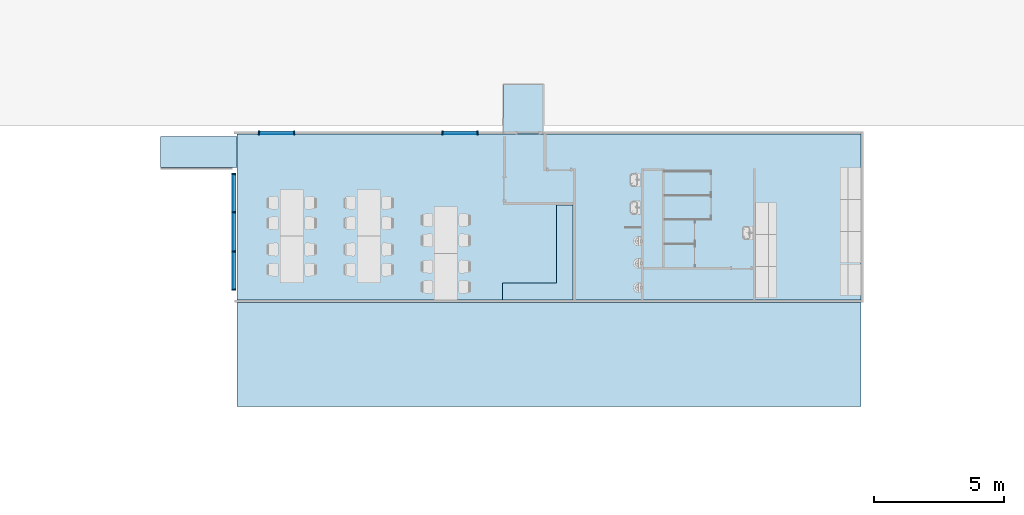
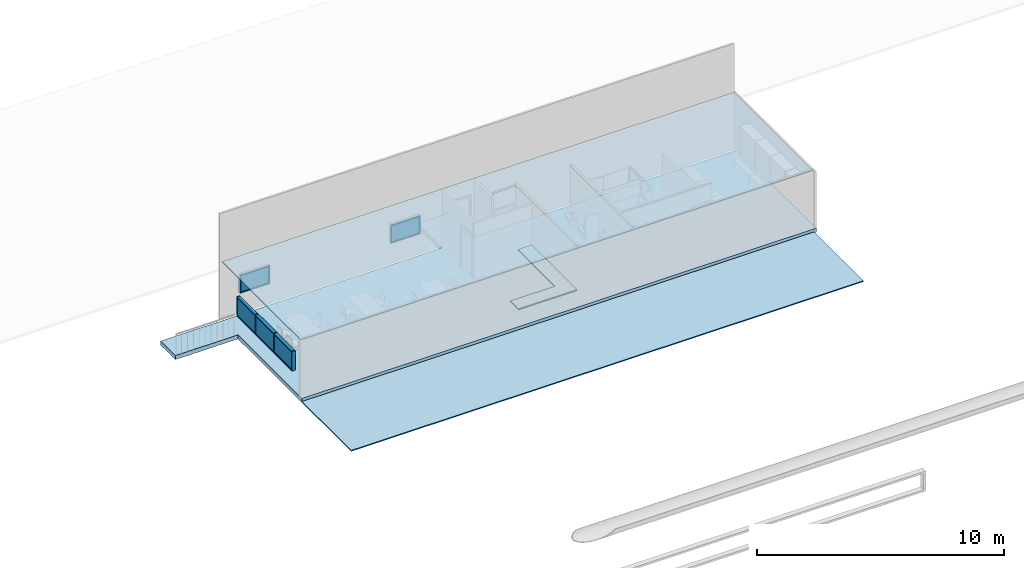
# One storey, part 1 of 6: 18 members, 5 plates, 4 slabs, 3 elements without a shape of their own.
"""IFC2X3 building model written with IfcOpenShell, lengths in millimetres."""

from ifc_helpers import new_model, entity, si_unit, converted_unit, derived_unit, direction, frame, frame_2d, origin, origin_2d_with_axis, place, context, subcontext, project, spatial, polyline, rectangle, outline, extrude, source, transform, mapped, material, layer, layer_set, layer_usage, type_object, type_shapes, element, aggregate, save


model = new_model("IFC2X3")

# Units and contexts
model_context = context("Model", 3, precision=0.01, world=origin(), true_north=direction((4.05803320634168e-15, -1.0)))
body_context = subcontext(model_context, "Body", "Model", "MODEL_VIEW")
ifc_project = project(units=[si_unit("LENGTHUNIT", "METRE", prefix="MILLI"), si_unit("AREAUNIT", "SQUARE_METRE"), si_unit("VOLUMEUNIT", "CUBIC_METRE"), converted_unit("PLANEANGLEUNIT", "DEGREE", entity("IfcRatioMeasure", 0.0174532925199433), si_unit("PLANEANGLEUNIT", "RADIAN"), dimensions=[0, 0, 0, 0, 0, 0, 0]), si_unit("MASSUNIT", "GRAM", prefix="KILO"), derived_unit("MASSDENSITYUNIT", [(si_unit("MASSUNIT", "GRAM", prefix="KILO"), 1), (si_unit("LENGTHUNIT", "METRE"), -3)]), si_unit("TIMEUNIT", "SECOND"), si_unit("FREQUENCYUNIT", "HERTZ"), si_unit("THERMODYNAMICTEMPERATUREUNIT", "DEGREE_CELSIUS"), derived_unit("THERMALTRANSMITTANCEUNIT", [(si_unit("MASSUNIT", "GRAM", prefix="KILO"), 1), (si_unit("THERMODYNAMICTEMPERATUREUNIT", "KELVIN"), -1), (si_unit("TIMEUNIT", "SECOND"), -3)]), derived_unit("VOLUMETRICFLOWRATEUNIT", [(si_unit("LENGTHUNIT", "METRE"), 3), (si_unit("TIMEUNIT", "SECOND"), -1)]), si_unit("ELECTRICCURRENTUNIT", "AMPERE"), si_unit("ELECTRICVOLTAGEUNIT", "VOLT"), si_unit("POWERUNIT", "WATT"), si_unit("FORCEUNIT", "NEWTON", prefix="KILO"), si_unit("ILLUMINANCEUNIT", "LUX"), si_unit("LUMINOUSFLUXUNIT", "LUMEN"), si_unit("LUMINOUSINTENSITYUNIT", "CANDELA"), derived_unit("USERDEFINED", [(si_unit("MASSUNIT", "GRAM", prefix="KILO"), -1), (si_unit("LENGTHUNIT", "METRE"), -2), (si_unit("TIMEUNIT", "SECOND"), 3), (si_unit("LUMINOUSFLUXUNIT", "LUMEN"), 1)]), derived_unit("LINEARVELOCITYUNIT", [(si_unit("LENGTHUNIT", "METRE"), 1), (si_unit("TIMEUNIT", "SECOND"), -1)]), si_unit("PRESSUREUNIT", "PASCAL"), derived_unit("USERDEFINED", [(si_unit("LENGTHUNIT", "METRE"), -2), (si_unit("MASSUNIT", "GRAM", prefix="KILO"), 1), (si_unit("TIMEUNIT", "SECOND"), -2)])], contexts=[model_context])

# Site, building, storey
site_placement = place(None, frame((927466.849349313, 583801.882853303, 0.0), z_axis=(0.0, 0.0, 1.0), x_axis=(-1.0, 0.0, 0.0)))
site = spatial("IfcSite", under=ifc_project, at=site_placement, Name="Surface", CompositionType="ELEMENT")
building_placement = place(site_placement, origin())
building = spatial("IfcBuilding", under=site, at=building_placement, CompositionType="ELEMENT")
storey_placement = place(building_placement, frame((0.0, 0.0, 51027.1066036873)))
storey = spatial("IfcBuildingStorey", under=building, at=storey_placement, Name="2nd floor", CompositionType="ELEMENT", Elevation=51027.1066036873)

# Curtain wall, members
curtain_wall_type = type_object("IfcCurtainWallType", Name="Curtain Wall:Storefront", PredefinedType="NOTDEFINED")
curtain_wall_1_placement = place(storey_placement, frame((0.0, 0.0, -51027.1066036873)))
curtain_wall_1 = element("IfcCurtainWall", 1, at=curtain_wall_1_placement, inside=storey, type_object=curtain_wall_type, Name="Curtain Wall:Storefront", ObjectType="Curtain Wall:Storefront")
ifc_material_1 = material(Name="Aluminium")
member_1_placement = place(curtain_wall_1_placement, frame((0.0, 0.0, 51027.1066036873)))
member_1 = element("IfcMember", 2, at=member_1_placement, material=ifc_material_1, Name="Curtain Wall:Storefront:8486", ObjectType="Curtain Wall:Storefront:8486", context=body_context, shape_type="SweptSolid", body=[
    extrude(rectangle(XDim=49.9999999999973, YDim=150.000000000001, at=frame_2d((4.33253433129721e-12, 0.0), x_axis=(1.0, 0.0))), frame((-80781.59177989, 13557.4703266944, 2075.0), z_axis=(0.0, 1.0, 0.0), x_axis=(0.0, 0.0, -1.0)), (0.0, 0.0, 1.0), 1425.0000001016),
])
member_2_placement = place(curtain_wall_1_placement, frame((0.0, 0.0, 51027.1066036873)))
member_2 = element("IfcMember", 3, at=member_2_placement, material=ifc_material_1, Name="Curtain Wall:Storefront:8486", ObjectType="Curtain Wall:Storefront:8486", context=body_context, shape_type="SweptSolid", body=[
    extrude(rectangle(XDim=49.9999999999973, YDim=150.000000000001, at=frame_2d((-4.33253433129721e-12, 0.0), x_axis=(1.0, 0.0))), frame((-80781.59177989, 17957.4703266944, 1158.12149669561), z_axis=(0.0, -1.0, 0.0), x_axis=(0.0, 0.0, -1.0)), (0.0, 0.0, 1.0), 1425.0000001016),
])
member_3_placement = place(curtain_wall_1_placement, frame((0.0, 0.0, 51027.1066036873)))
member_3 = element("IfcMember", 4, at=member_3_placement, material=ifc_material_1, Name="Curtain Wall:Storefront:8486", ObjectType="Curtain Wall:Storefront:8486", context=body_context, shape_type="SweptSolid", body=[
    extrude(rectangle(XDim=150.000000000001, YDim=49.9999999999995, at=frame_2d((0.0, -1.08357767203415e-12), x_axis=(1.0, 0.0))), frame((-80781.59177989, 13532.4703266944, 1133.12149669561), z_axis=(0.0, 0.0, 1.0), x_axis=(-1.0, 0.0, 0.0)), (0.0, 0.0, 1.0), 966.878503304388),
])
member_4_placement = place(curtain_wall_1_placement, frame((0.0, 0.0, 51027.1066036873)))
member_4 = element("IfcMember", 5, at=member_4_placement, material=ifc_material_1, Name="Curtain Wall:Storefront:8486", ObjectType="Curtain Wall:Storefront:8486", context=body_context, shape_type="SweptSolid", body=[
    extrude(rectangle(XDim=150.000000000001, YDim=49.9999999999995, at=frame_2d((0.0, -1.08357767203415e-12), x_axis=(1.0, 0.0))), frame((-80781.59177989, 17982.4703266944, 2100.0), z_axis=(0.0, 0.0, -1.0), x_axis=(-1.0, 0.0, 0.0)), (0.0, 0.0, 1.0), 966.878503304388),
])
member_5_placement = place(curtain_wall_1_placement, frame((0.0, 0.0, 51027.1066036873)))
member_5 = element("IfcMember", 6, at=member_5_placement, material=ifc_material_1, Name="Curtain Wall:Storefront:8486", ObjectType="Curtain Wall:Storefront:8486", context=body_context, shape_type="SweptSolid", body=[
    extrude(rectangle(XDim=49.9999999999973, YDim=150.000000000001, at=frame_2d((4.33253433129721e-12, 0.0), x_axis=(1.0, 0.0))), frame((-80781.59177989, 16532.4703265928, 2075.0), z_axis=(0.0, 1.0, 0.0), x_axis=(0.0, 0.0, -1.0)), (0.0, 0.0, 1.0), 1425.0000001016),
])
member_6_placement = place(curtain_wall_1_placement, frame((0.0, 0.0, 51027.1066036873)))
member_6 = element("IfcMember", 7, at=member_6_placement, material=ifc_material_1, Name="Curtain Wall:Storefront:8486", ObjectType="Curtain Wall:Storefront:8486", context=body_context, shape_type="SweptSolid", body=[
    extrude(rectangle(XDim=49.9999999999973, YDim=150.000000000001, at=frame_2d((-4.33253433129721e-12, 0.0), x_axis=(1.0, 0.0))), frame((-80781.59177989, 16482.4703265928, 1158.12149669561), z_axis=(0.0, -1.0, 0.0), x_axis=(0.0, 0.0, -1.0)), (0.0, 0.0, 1.0), 1449.9999997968),
])
member_7_placement = place(curtain_wall_1_placement, frame((0.0, 0.0, 51027.1066036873)))
member_7 = element("IfcMember", 8, at=member_7_placement, material=ifc_material_1, Name="Curtain Wall:Storefront:8486", ObjectType="Curtain Wall:Storefront:8486", context=body_context, shape_type="SweptSolid", body=[
    extrude(rectangle(XDim=150.000000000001, YDim=50.0000000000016, at=origin_2d_with_axis()), frame((-80781.59177989, 16507.4703265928, 1133.12149669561), z_axis=(0.0, 0.0, 1.0), x_axis=(-1.0, 0.0, 0.0)), (0.0, 0.0, 1.0), 966.878503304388),
])
member_8_placement = place(curtain_wall_1_placement, frame((0.0, 0.0, 51027.1066036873)))
member_8 = element("IfcMember", 9, at=member_8_placement, material=ifc_material_1, Name="Curtain Wall:Storefront:8486", ObjectType="Curtain Wall:Storefront:8486", context=body_context, shape_type="SweptSolid", body=[
    extrude(rectangle(XDim=49.9999999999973, YDim=150.000000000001, at=frame_2d((4.33253433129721e-12, 0.0), x_axis=(1.0, 0.0))), frame((-80781.59177989, 15032.470326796, 2075.0), z_axis=(0.0, 1.0, 0.0), x_axis=(0.0, 0.0, -1.0)), (0.0, 0.0, 1.0), 1449.9999997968),
])
member_9_placement = place(curtain_wall_1_placement, frame((0.0, 0.0, 51027.1066036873)))
member_9 = element("IfcMember", 10, at=member_9_placement, material=ifc_material_1, Name="Curtain Wall:Storefront:8486", ObjectType="Curtain Wall:Storefront:8486", context=body_context, shape_type="SweptSolid", body=[
    extrude(rectangle(XDim=49.9999999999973, YDim=150.000000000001, at=frame_2d((-4.33253433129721e-12, 0.0), x_axis=(1.0, 0.0))), frame((-80781.59177989, 14982.470326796, 1158.12149669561), z_axis=(0.0, -1.0, 0.0), x_axis=(0.0, 0.0, -1.0)), (0.0, 0.0, 1.0), 1425.0000001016),
])
member_10_placement = place(curtain_wall_1_placement, frame((0.0, 0.0, 51027.1066036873)))
member_10 = element("IfcMember", 11, at=member_10_placement, material=ifc_material_1, Name="Curtain Wall:Storefront:8486", ObjectType="Curtain Wall:Storefront:8486", context=body_context, shape_type="SweptSolid", body=[
    extrude(rectangle(XDim=150.000000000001, YDim=50.0000000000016, at=origin_2d_with_axis()), frame((-80781.59177989, 15007.470326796, 1133.12149669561), z_axis=(0.0, 0.0, 1.0), x_axis=(-1.0, 0.0, 0.0)), (0.0, 0.0, 1.0), 966.878503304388),
])

curtain_wall_2_placement = place(storey_placement, frame((0.0, 0.0, -51027.1066036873)))
curtain_wall_2 = element("IfcCurtainWall", 12, at=curtain_wall_2_placement, inside=storey, type_object=curtain_wall_type, Name="Curtain Wall:Storefront", ObjectType="Curtain Wall:Storefront")
member_11_placement = place(curtain_wall_2_placement, frame((0.0, 0.0, 51027.1066036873)))
member_11 = element("IfcMember", 13, at=member_11_placement, material=ifc_material_1, Name="Curtain Wall:Storefront:8486", ObjectType="Curtain Wall:Storefront:8486", context=body_context, shape_type="SweptSolid", body=[
    extrude(rectangle(XDim=49.9999999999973, YDim=150.000000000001, at=frame_2d((-4.33075797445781e-12, 2.16715534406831e-12), x_axis=(1.0, 0.0))), frame((-81773.1454492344, 11958.2777512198, 1875.0), z_axis=(-1.0, 0.0, 0.0), x_axis=(0.0, 0.0, -1.0)), (0.0, 0.0, 1.0), 1300.0),
])
member_12_placement = place(curtain_wall_2_placement, frame((0.0, 0.0, 51027.1066036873)))
member_12 = element("IfcMember", 14, at=member_12_placement, material=ifc_material_1, Name="Curtain Wall:Storefront:8486", ObjectType="Curtain Wall:Storefront:8486", context=body_context, shape_type="SweptSolid", body=[
    extrude(rectangle(XDim=49.9999999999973, YDim=150.000000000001, at=frame_2d((4.33075797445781e-12, 2.16715534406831e-12), x_axis=(1.0, 0.0))), frame((-83073.1454492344, 11958.2777512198, 1016.66921101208), z_axis=(1.0, 0.0, 0.0), x_axis=(0.0, 0.0, -1.0)), (0.0, 0.0, 1.0), 1300.0),
])
member_13_placement = place(curtain_wall_2_placement, frame((0.0, 0.0, 51027.1066036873)))
member_13 = element("IfcMember", 15, at=member_13_placement, material=ifc_material_1, Name="Curtain Wall:Storefront:8486", ObjectType="Curtain Wall:Storefront:8486", context=body_context, shape_type="SweptSolid", body=[
    extrude(rectangle(XDim=50.000000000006, YDim=150.000000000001, at=frame_2d((-8.66329230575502e-12, 0.0), x_axis=(1.0, 0.0))), frame((-81748.1454492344, 11958.2777512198, 991.669211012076), z_axis=(0.0, 0.0, 1.0), x_axis=(-1.0, 0.0, 0.0)), (0.0, 0.0, 1.0), 908.330788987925),
])
member_14_placement = place(curtain_wall_2_placement, frame((0.0, 0.0, 51027.1066036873)))
member_14 = element("IfcMember", 16, at=member_14_placement, material=ifc_material_1, Name="Curtain Wall:Storefront:8486", ObjectType="Curtain Wall:Storefront:8486", context=body_context, shape_type="SweptSolid", body=[
    extrude(rectangle(XDim=50.000000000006, YDim=150.000000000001, at=frame_2d((8.66329230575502e-12, 0.0), x_axis=(1.0, 0.0))), frame((-83098.1454492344, 11958.2777512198, 1900.0), z_axis=(0.0, 0.0, -1.0), x_axis=(-1.0, 0.0, 0.0)), (0.0, 0.0, 1.0), 908.330788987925),
])

curtain_wall_3_placement = place(storey_placement, frame((0.0, 0.0, -51027.1066036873)))
curtain_wall_3 = element("IfcCurtainWall", 17, at=curtain_wall_3_placement, inside=storey, type_object=curtain_wall_type, Name="Curtain Wall:Storefront", ObjectType="Curtain Wall:Storefront")
member_15_placement = place(curtain_wall_3_placement, frame((0.0, 0.0, 51027.1066036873)))
member_15 = element("IfcMember", 18, at=member_15_placement, material=ifc_material_1, Name="Curtain Wall:Storefront:8486", ObjectType="Curtain Wall:Storefront:8486", context=body_context, shape_type="SweptSolid", body=[
    extrude(rectangle(XDim=49.9999999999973, YDim=150.000000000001, at=frame_2d((-4.33075797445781e-12, 2.16715534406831e-12), x_axis=(1.0, 0.0))), frame((-88813.1454492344, 11958.2777512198, 1875.0), z_axis=(-1.0, 0.0, 0.0), x_axis=(0.0, 0.0, -1.0)), (0.0, 0.0, 1.0), 1300.0),
])
member_16_placement = place(curtain_wall_3_placement, frame((0.0, 0.0, 51027.1066036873)))
member_16 = element("IfcMember", 19, at=member_16_placement, material=ifc_material_1, Name="Curtain Wall:Storefront:8486", ObjectType="Curtain Wall:Storefront:8486", context=body_context, shape_type="SweptSolid", body=[
    extrude(rectangle(XDim=49.9999999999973, YDim=150.000000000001, at=frame_2d((4.33075797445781e-12, 2.16715534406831e-12), x_axis=(1.0, 0.0))), frame((-90113.1454492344, 11958.2777512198, 1016.66921101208), z_axis=(1.0, 0.0, 0.0), x_axis=(0.0, 0.0, -1.0)), (0.0, 0.0, 1.0), 1300.0),
])
member_17_placement = place(curtain_wall_3_placement, frame((0.0, 0.0, 51027.1066036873)))
member_17 = element("IfcMember", 20, at=member_17_placement, material=ifc_material_1, Name="Curtain Wall:Storefront:8486", ObjectType="Curtain Wall:Storefront:8486", context=body_context, shape_type="SweptSolid", body=[
    extrude(rectangle(XDim=50.000000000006, YDim=150.000000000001, at=frame_2d((-8.66329230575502e-12, 0.0), x_axis=(1.0, 0.0))), frame((-88788.1454492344, 11958.2777512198, 991.669211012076), z_axis=(0.0, 0.0, 1.0), x_axis=(-1.0, 0.0, 0.0)), (0.0, 0.0, 1.0), 908.330788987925),
])
member_18_placement = place(curtain_wall_3_placement, frame((0.0, 0.0, 51027.1066036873)))
member_18 = element("IfcMember", 21, at=member_18_placement, material=ifc_material_1, Name="Curtain Wall:Storefront:8486", ObjectType="Curtain Wall:Storefront:8486", context=body_context, shape_type="SweptSolid", body=[
    extrude(rectangle(XDim=50.000000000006, YDim=150.000000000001, at=frame_2d((8.66329230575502e-12, 0.0), x_axis=(1.0, 0.0))), frame((-90138.1454492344, 11958.2777512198, 1900.0), z_axis=(0.0, 0.0, -1.0), x_axis=(-1.0, 0.0, 0.0)), (0.0, 0.0, 1.0), 908.330788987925),
])

# Plate
ifc_material_2 = material(Name="Glass")
plate_type_1 = type_object("IfcPlateType", Name="Glazed", PredefinedType="CURTAIN_PANEL", material=ifc_material_2)
shared_shape_1 = source(origin(), body_context, "Body", "SweptSolid", [
    extrude(rectangle(XDim=25.0, YDim=1425.0000001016, at=origin_2d_with_axis()), frame((0.0, 37.0, 0.0), z_axis=(0.0, 0.0, 1.0), x_axis=(0.0, 1.0, 0.0)), (0.0, 0.0, 1.0), 866.878503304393),
])
type_shapes(plate_type_1, [shared_shape_1])
plate_1_placement = place(curtain_wall_1_placement, frame((-80781.59177989, 17244.9703266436, 52210.2281003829), z_axis=(0.0, 0.0, 1.0), x_axis=(0.0, -1.0, 0.0)))
plate_1 = element("IfcPlate", 22, at=plate_1_placement, type_object=plate_type_1, material=ifc_material_2, Name="System Panel:Glazed", ObjectType="Glazed", context=body_context, shape_type="MappedRepresentation", body=[
    mapped(shared_shape_1, transform((0.0, 0.0, 0.0), scale=1.0)),
])

plate_2_placement = place(curtain_wall_1_placement, frame((-80781.59177989, 14269.9703267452, 52210.2281003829), z_axis=(0.0, 0.0, 1.0), x_axis=(0.0, -1.0, 0.0)))
plate_2 = element("IfcPlate", 23, at=plate_2_placement, type_object=plate_type_1, material=ifc_material_2, Name="System Panel:Glazed", ObjectType="Glazed", context=body_context, shape_type="MappedRepresentation", body=[
    mapped(shared_shape_1, transform((0.0, 0.0, 0.0), scale=1.0)),
])

plate_type_2 = type_object("IfcPlateType", Name="Glazed", PredefinedType="CURTAIN_PANEL", material=ifc_material_2)
shared_shape_2 = source(origin(), body_context, "Body", "SweptSolid", [
    extrude(rectangle(XDim=25.0, YDim=1449.9999997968, at=origin_2d_with_axis()), frame((0.0, 37.0, 0.0), z_axis=(0.0, 0.0, 1.0), x_axis=(0.0, 1.0, 0.0)), (0.0, 0.0, 1.0), 866.878503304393),
])
type_shapes(plate_type_2, [shared_shape_2])
plate_3_placement = place(curtain_wall_1_placement, frame((-80781.59177989, 15757.4703266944, 52210.2281003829), z_axis=(0.0, 0.0, 1.0), x_axis=(0.0, -1.0, 0.0)))
plate_3 = element("IfcPlate", 24, at=plate_3_placement, type_object=plate_type_2, material=ifc_material_2, Name="System Panel:Glazed", ObjectType="Glazed", context=body_context, shape_type="MappedRepresentation", body=[
    mapped(shared_shape_2, transform((0.0, 0.0, 0.0), scale=1.0)),
])

aggregate(curtain_wall_1, [plate_1, plate_3, plate_2, member_1, member_2, member_3, member_4, member_5, member_6, member_7, member_8, member_9, member_10])

plate_type_3 = type_object("IfcPlateType", Name="Glazed", PredefinedType="CURTAIN_PANEL", material=ifc_material_2)
shared_shape_3 = source(origin(), body_context, "Body", "SweptSolid", [
    extrude(rectangle(XDim=25.0, YDim=1299.99999999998, at=origin_2d_with_axis()), frame((0.0, 37.0, 0.0), z_axis=(0.0, 0.0, 1.0), x_axis=(0.0, 1.0, 0.0)), (0.0, 0.0, 1.0), 808.330788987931),
])
type_shapes(plate_type_3, [shared_shape_3])
plate_4_placement = place(curtain_wall_2_placement, frame((-82423.1454492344, 11958.2777512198, 52068.7758146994)))
plate_4 = element("IfcPlate", 25, at=plate_4_placement, type_object=plate_type_3, material=ifc_material_2, Name="System Panel:Glazed", ObjectType="Glazed", context=body_context, shape_type="MappedRepresentation", body=[
    mapped(shared_shape_3, transform((0.0, 0.0, 0.0), scale=1.0)),
])

aggregate(curtain_wall_2, [plate_4, member_11, member_12, member_13, member_14])

plate_5_placement = place(curtain_wall_3_placement, frame((-89463.1454492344, 11958.2777512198, 52068.7758146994)))
plate_5 = element("IfcPlate", 26, at=plate_5_placement, type_object=plate_type_3, material=ifc_material_2, Name="System Panel:Glazed", ObjectType="Glazed", context=body_context, shape_type="MappedRepresentation", body=[
    mapped(shared_shape_3, transform((0.0, 0.0, 0.0), scale=1.0)),
])

aggregate(curtain_wall_3, [plate_5, member_15, member_16, member_17, member_18])

# Slabs
ifc_material_3 = material(Name="cocn slab Mezz")
ifc_layer_1 = layer(ifc_material_3, 200.0)
ifc_layer_set_1 = layer_set([ifc_layer_1], Name="Floor:Mezz")
ifc_layer_usage_1 = layer_usage(ifc_layer_set_1, "AXIS3", "POSITIVE", 0.0)
slab_1_placement = place(storey_placement, origin())
element("IfcSlab", 27, at=slab_1_placement, inside=storey, material=ifc_layer_usage_1, Name="Floor:Mezz", ObjectType="Floor:Mezz", PredefinedType="FLOOR", context=body_context, shape_type="SweptSolid", body=[
    extrude(outline(polyline([(-1112.87068010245, -15426.4096608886), (5259.30602015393, -15426.4096608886), (5259.30602015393, 8624.38681831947), (79.3060201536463, 8624.38681831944), (79.3060201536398, 11552.9363121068), (-1112.87068010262, 11552.9363121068), (-1112.87068010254, -1597.51221681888), (-3112.87068010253, -1597.51221681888), (-3112.87068010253, -3153.4012527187), (-1112.87068010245, -3153.4012527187), (-1112.87068010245, -15426.4096608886)])), frame((-89521.5276159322, 13209.9717310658, 0.0), z_axis=(0.0, 0.0, -1.0), x_axis=(0.0, 1.0, 0.0)), (0.0, 0.0, 1.0), 199.999999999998),
])
ifc_material_4 = material(Name="Wood - Stained")
ifc_layer_2 = layer(ifc_material_4, 50.0)
ifc_layer_set_2 = layer_set([ifc_layer_2], Name="Floor:Counter")
ifc_layer_usage_2 = layer_usage(ifc_layer_set_2, "AXIS3", "POSITIVE", 0.0)
slab_2_placement = place(storey_placement, origin())
element("IfcSlab", 28, at=slab_2_placement, inside=storey, material=ifc_layer_usage_2, Name="Floor:Counter", ObjectType="Floor:Counter", PredefinedType="FLOOR", context=body_context, shape_type="SweptSolid", body=[
    extrude(outline(polyline([(-2216.66994952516, -1121.604054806), (1433.33989905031, -1121.604054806), (1433.33989905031, 1598.56085281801), (783.330050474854, 1598.56085281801), (783.330050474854, -476.956798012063), (-2216.66994952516, -476.956798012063), (-2216.66994952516, -1121.604054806)])), frame((-92687.2025626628, 16935.9378521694, 800.0), z_axis=(0.0, 0.0, -1.0), x_axis=(0.0, 1.0, 0.0)), (0.0, 0.0, 1.0), 49.9999999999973),
])
ifc_material_5 = material(Name="Gypsum Wall Board")
ifc_layer_3 = layer(ifc_material_5, 50.0)
ifc_layer_set_3 = layer_set([ifc_layer_3], Name="Floor:celing")
ifc_layer_usage_3 = layer_usage(ifc_layer_set_3, "AXIS3", "POSITIVE", 0.0)
slab_3_placement = place(storey_placement, origin())
element("IfcSlab", 29, at=slab_3_placement, inside=storey, material=ifc_layer_usage_3, Name="Floor:celing", ObjectType="Floor:celing", PredefinedType="FLOOR", context=body_context, shape_type="SweptSolid", body=[
    extrude(rectangle(XDim=3988.19257548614, YDim=23950.7964792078, at=frame_2d((0.0, 9.09494701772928e-12), x_axis=(1.0, 0.0))), frame((-92872.5390372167, 20463.3740389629, -150.0), z_axis=(0.0, 0.0, -1.0), x_axis=(0.0, 1.0, 0.0)), (0.0, 0.0, 1.0), 49.9999999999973),
])
ifc_layer_usage_4 = layer_usage(ifc_layer_set_3, "AXIS3", "POSITIVE", 0.0)
slab_4_placement = place(storey_placement, origin())
element("IfcSlab", 30, at=slab_4_placement, inside=storey, material=ifc_layer_usage_4, Name="Floor:celing", ObjectType="Floor:celing", PredefinedType="FLOOR", context=body_context, shape_type="SweptSolid", body=[
    extrude(rectangle(XDim=6361.00000000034, YDim=23950.7964792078, at=frame_2d((1.13686837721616e-12, 9.09494701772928e-12), x_axis=(1.0, 0.0))), frame((-92872.5390372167, 15188.7777512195, 2850.0), z_axis=(0.0, 0.0, -1.0), x_axis=(0.0, 1.0, 0.0)), (0.0, 0.0, 1.0), 49.9999999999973),
])

save(model, "model.ifc")
